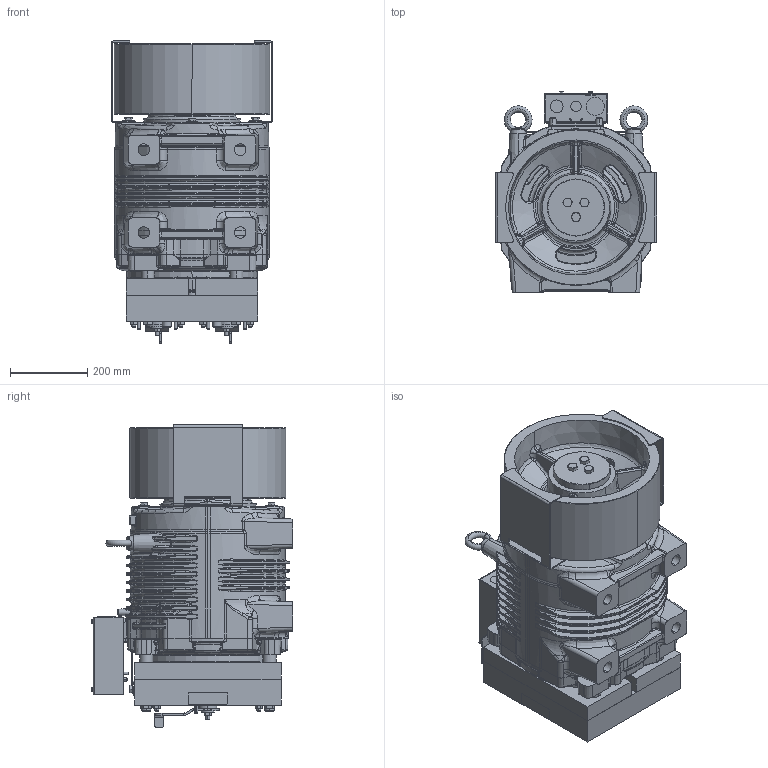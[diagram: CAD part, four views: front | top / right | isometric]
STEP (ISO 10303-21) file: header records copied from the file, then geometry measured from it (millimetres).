
FILE_DESCRIPTION((''),'2;1');
FILE_NAME('00363634_ASM','2020-06-16T',('furlanis'),('Sicor spa'),'CREO PARAMETRIC BY PTC INC, 2017170','CREO PARAMETRIC BY PTC INC, 2017170','');
FILE_SCHEMA(('CONFIG_CONTROL_DESIGN'));
Products named in the file (4): SG62_; _400_182; _400; 00363634_ASM
Assembly tree (4 placements, depth 2):
  00363634_ASM
    SG62_
    _400_182
    _400  x2
Bounding box: 419 x 521.9 x 783.64 mm (x, y, z)
Volume: 10707207.3 mm3; surface area: 4751150.4 mm2
Topology: 3 solids, 181 shells, 4074 faces, 11485 edges, 7318 vertices
Faces by surface type: bspline 1180, plane 959, cylinder 897, torus 541, cone 447, sphere 50
Entity records: 229483 total; most frequent: CARTESIAN_POINT 140880, ORIENTED_EDGE 19754, DIRECTION 14799, EDGE_CURVE 11309, VERTEX_POINT 7242, AXIS2_PLACEMENT_3D 5893, B_SPLINE_CURVE_WITH_KNOTS 5259, EDGE_LOOP 4041
